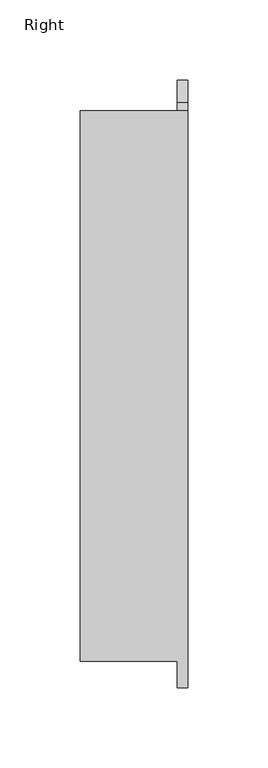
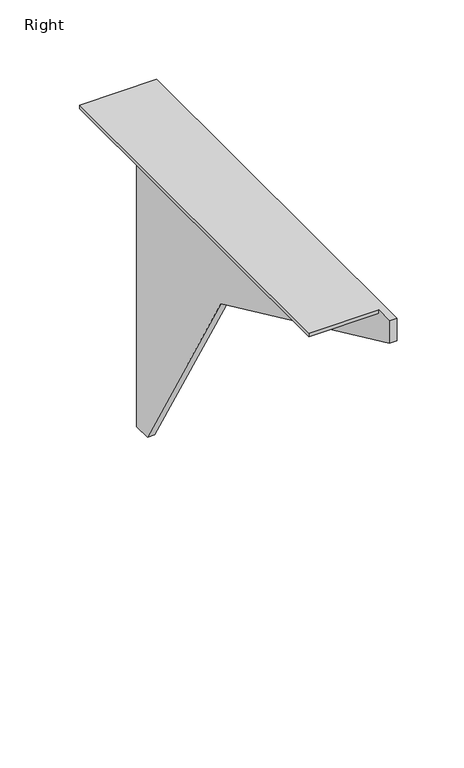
"""IFC4 building model written with IfcOpenShell, lengths in millimetres: furniture geometry, Steelcase - Answer Solution - Panel Mounted Universal Support - Cantilever : Right."""

from ifc_helpers import new_model, si_unit, origin, place, context, project, spatial, faceted_brep, source, transform, mapped, element, save


def right_3d4eb8b5(model_context):
    return source(origin(), model_context, "Body", "Brep", [
        faceted_brep([(0.0, -18.8652729, 683.2686138), (0.0, -18.8652729, 693.7373789), (0.0, -378.005924, 693.7373789), (0.0, -378.005924, 673.1603645), (0.0, -126.1876465, 556.5973486), (0.0, -15.8528841, 367.9598803), (0.0, 0.0, 367.9598803), (0.0, 0.0, 646.9179983), (0.0, -13.564579, 653.112751), (0.0, -13.564579, 631.915353), (0.0, -93.4246754, 668.6474859), (0.0, -90.6996964, 682.9788786), (-6.3496124, -18.8652729, 683.2686138), (-6.3496124, -90.6996964, 682.9788786), (-6.3496124, -93.4246754, 668.6474859), (-6.3496124, -13.564579, 631.915353), (-6.3496124, -13.564579, 653.112751), (-6.3496124, 0.0, 646.9179983), (-6.3496124, 0.0, 367.9598803), (-6.3496124, -15.8528841, 367.9598803), (-6.3496124, -126.1876465, 556.5973486), (-6.3496124, -378.005924, 673.1603645), (-6.3496124, -378.005924, 693.7373789), (-6.3496124, -361.7652002, 693.7373789), (-6.3496124, -361.7652002, 690.6147928), (-6.3496124, -18.8652729, 690.6147928), (-66.802, -18.8651276, 693.7373789), (-66.802, -361.7652002, 693.7373789), (-66.802, -18.8652729, 690.6147928), (-66.802, -361.7652002, 690.6147928)], [[[0, 1, 2, 3, 4, 5, 6, 7, 8, 9, 10, 11]], [[12, 13, 14, 15, 16, 17, 18, 19, 20, 21, 22, 23, 24, 25]], [[26, 27, 23, 22, 2, 1]], [[3, 2, 22, 21]], [[4, 3, 21, 20]], [[5, 4, 20, 19]], [[6, 5, 19, 18]], [[7, 6, 18, 17]], [[8, 7, 17, 16]], [[9, 8, 16, 15]], [[10, 9, 15, 14]], [[11, 10, 14, 13]], [[0, 11, 13, 12]], [[26, 1, 0, 12, 25, 28]], [[29, 28, 25, 24]], [[27, 26, 28, 29]], [[27, 29, 24, 23]]]),
    ])


if __name__ == "__main__":
    model = new_model("IFC4")
    model_context = context("Model", 3, world=origin())
    ifc_project = project(units=[si_unit("LENGTHUNIT", "METRE", prefix="MILLI")], contexts=[model_context])
    site = spatial("IfcSite", under=ifc_project)
    building = spatial("IfcBuilding", under=site)
    placement = place(None, origin())
    right_shape = right_3d4eb8b5(model_context)
    element("IfcFurniture", 1, ObjectType="Steelcase - Answer Solution - Panel Mounted Universal Support - Cantilever : Right", at=placement, inside=building, context=model_context, shape_type="MappedRepresentation", body=[
        mapped(right_shape, transform((0.0, 0.0, 0.0), x_axis=(1.0, 0.0, 0.0), y_axis=(0.0, 1.0, 0.0), z_axis=(0.0, 0.0, 1.0))),
    ])
    save(model, "model.ifc")
